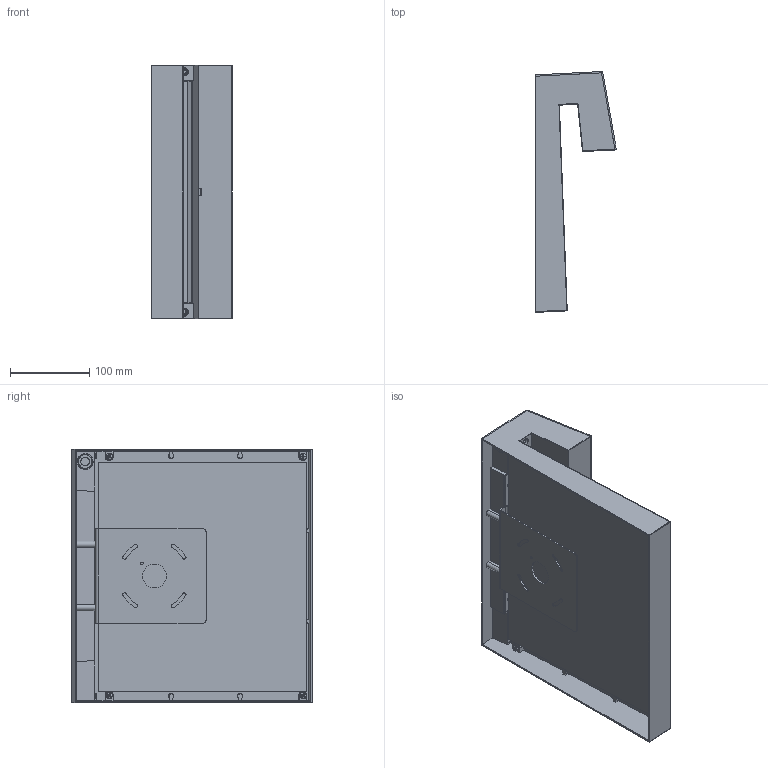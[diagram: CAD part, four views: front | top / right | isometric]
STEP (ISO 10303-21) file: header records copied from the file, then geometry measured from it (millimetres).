
FILE_DESCRIPTION (( 'STEP AP203' ), '1' );
FILE_NAME ('SISAL A-01 OUT 28401012xx.STEP', '2023-09-14T09:31:42', ( '' ), ( '' ), 'SwSTEP 2.0', 'SolidWorks 2019', '' );
FILE_SCHEMA (( 'CONFIG_CONTROL_DESIGN' ));
Length unit declared in the file: millimetre
Products named in the file (20): 000-284-03; 000-284-02; 284-01b-gaimo-20190617.stp; 000-914-044; 000-D7985-45A2; 000-284-09; 000-909-026; 000-914-138; 000-284-05; 000-PAQUETE ELECTROPTICO_2; 000-D6798J-4.3A2; 000-D965.36PA_D965-36-A2; 000-MONTAJE OPTO_ELECTRONICO SISAL V2; 000-D7985-46A2; SISAL A-01 OUT 28401012xx; 000-SUB284-01; 000-284-10; 000-D912-415; 000-918-044; 000-D912-410
Assembly tree (32 placements, depth 5):
  SISAL A-01 OUT 28401012xx
    000-284-10
    284-01b-gaimo-20190617.stp
    000-284-02
    000-SUB284-01
      000-MONTAJE OPTO_ELECTRONICO SISAL V2
        000-PAQUETE ELECTROPTICO_2
          000-918-044
    000-909-026
    000-D6798J-4.3A2
    000-D7985-45A2
    000-D912-410  x2
    000-284-05
    000-D912-415  x2
    000-914-138  x2
    000-D7985-46A2  x4
    000-284-03
    000-D965.36PA_D965-36-A2  x8
    000-914-044
    000-284-09
Bounding box: 102.11 x 303.75 x 320 mm (x, y, z)
Volume: 1741604.6 mm3; surface area: 973594.5 mm2
Topology: 27 solids, 29 shells, 1477 faces, 3764 edges, 2367 vertices
Faces by surface type: plane 756, cylinder 296, cone 234, bspline 127, torus 48, sphere 16
Entity records: 37207 total; most frequent: CARTESIAN_POINT 9269, ORIENTED_EDGE 5540, DIRECTION 4912, EDGE_CURVE 2770, VERTEX_POINT 1796, AXIS2_PLACEMENT_3D 1652, VECTOR 1608, LINE 1608
